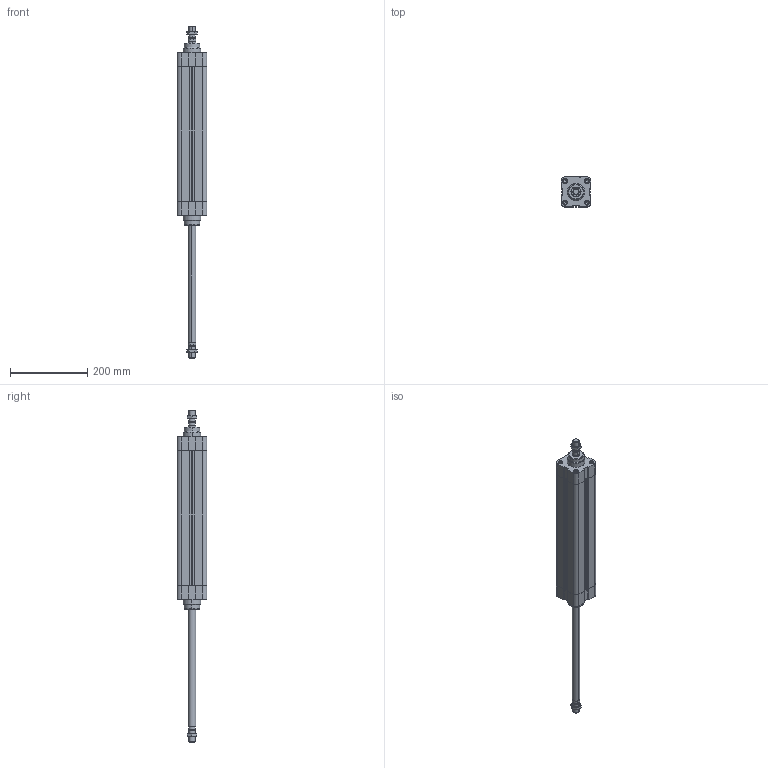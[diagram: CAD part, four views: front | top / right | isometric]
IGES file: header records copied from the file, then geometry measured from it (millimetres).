
Global section: file name: No Iges File Name specified; native system: Autodesk Inventor 2010; preprocessor: AutoDesk Inventor Iges Exporter R2010; author: rivolro1; date: 20090707.105810; units: millimetre
Bounding box: 77.5 x 77.5 x 859 mm (x, y, z)
Volume: 1753038.3 mm3; surface area: 337843.9 mm2
Topology: 6 solids, 6 shells, 343 faces, 810 edges, 508 vertices
Faces by surface type: plane 137, bspline 86, cylinder 58, cone 38, revolution 20, torus 4
